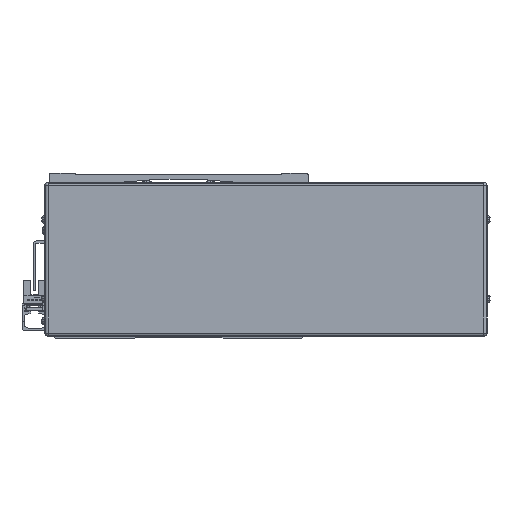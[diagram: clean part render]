
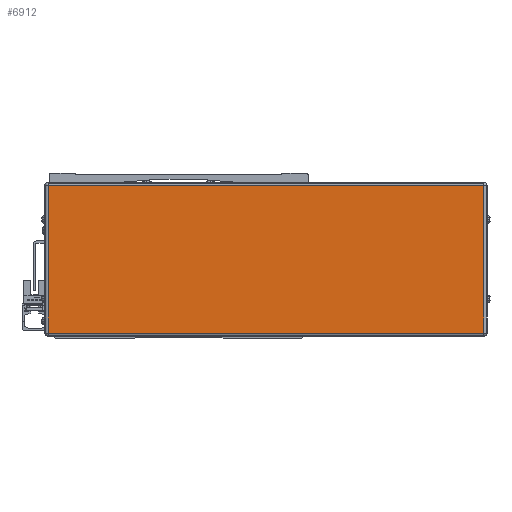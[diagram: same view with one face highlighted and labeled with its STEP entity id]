
A CAD part, front view. The second image highlights one B-rep face of the part: STEP entity #6912.
In plain terms, the highlighted planar face has unit normal (0, -1, 0).
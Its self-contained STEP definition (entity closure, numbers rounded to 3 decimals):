
#6912=ADVANCED_FACE('',(#14514),#14515,.T.);
#14514=FACE_OUTER_BOUND('',#24102,.T.);
#14515=PLANE('',#24103);
#24102=EDGE_LOOP('',(#45551,#45552,#45553,#45554));
#24103=AXIS2_PLACEMENT_3D('',#45555,#45556,#45557);
#45551=ORIENTED_EDGE('',*,*,#54203,.F.);
#45552=ORIENTED_EDGE('',*,*,#54397,.F.);
#45553=ORIENTED_EDGE('',*,*,#57733,.F.);
#45554=ORIENTED_EDGE('',*,*,#56372,.F.);
#45555=CARTESIAN_POINT('',(-545.,-222.778,-2.));
#45556=DIRECTION('',(0.,-1.0,0.));
#45557=DIRECTION('',(1.0,0.,0.));
#54203=EDGE_CURVE('',#65858,#65860,#65861,.T.);
#54397=EDGE_CURVE('',#66179,#65858,#66181,.T.);
#56372=EDGE_CURVE('',#65860,#63934,#69259,.T.);
#57733=EDGE_CURVE('',#63934,#66179,#71170,.T.);
#63934=VERTEX_POINT('',#79477);
#65858=VERTEX_POINT('',#82284);
#65860=VERTEX_POINT('',#82286);
#65861=LINE('',#82287,#82288);
#66179=VERTEX_POINT('',#82760);
#66181=LINE('',#82762,#82763);
#69259=LINE('',#87202,#87203);
#71170=LINE('',#90226,#90227);
#79477=CARTESIAN_POINT('',(-407.9,-222.778,-48.5));
#82284=CARTESIAN_POINT('',(-682.1,-222.778,44.5));
#82286=CARTESIAN_POINT('',(-407.9,-222.778,44.5));
#82287=CARTESIAN_POINT('',(-545.,-222.778,44.5));
#82288=VECTOR('',#99407,10.0);
#82760=CARTESIAN_POINT('',(-682.1,-222.778,-48.5));
#82762=CARTESIAN_POINT('',(-682.1,-222.778,-2.));
#82763=VECTOR('',#99639,10.0);
#87202=CARTESIAN_POINT('',(-407.9,-222.778,-2.));
#87203=VECTOR('',#102225,10.0);
#90226=CARTESIAN_POINT('',(-545.,-222.778,-48.5));
#90227=VECTOR('',#103764,10.0);
#99407=DIRECTION('',(1.0,0.,0.));
#99639=DIRECTION('',(0.,0.,1.0));
#102225=DIRECTION('',(0.,0.,-1.0));
#103764=DIRECTION('',(-1.0,0.,0.));
